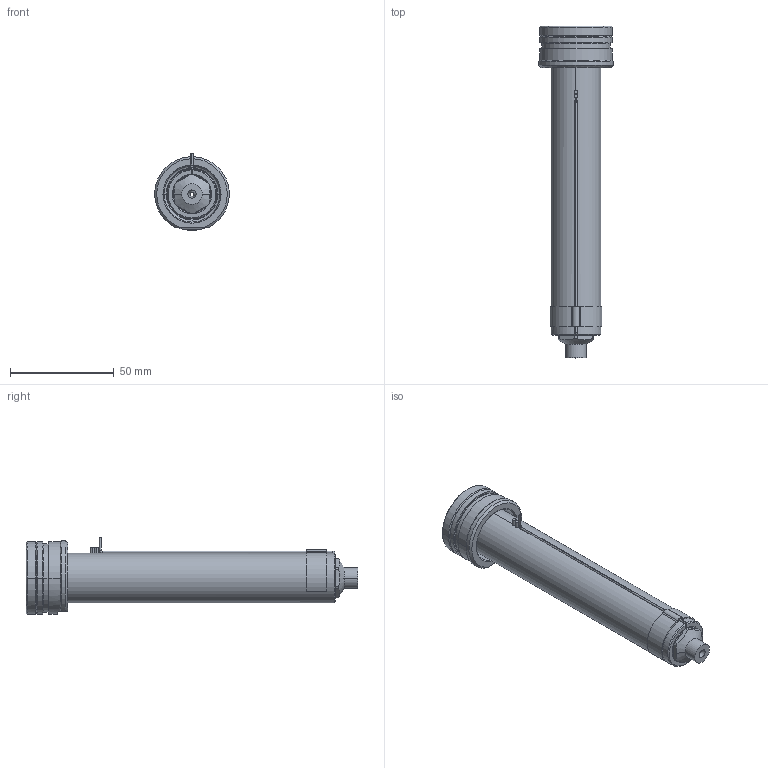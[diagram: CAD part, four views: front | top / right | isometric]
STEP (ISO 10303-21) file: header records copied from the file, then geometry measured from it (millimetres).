
FILE_DESCRIPTION((''),'2;1');
FILE_NAME('EO06_SG_SG_140_SW','2024-02-19T12:16:36',('sundharh'),(''),'CREO PARAMETRIC BY PTC INC, 2023154','CREO PARAMETRIC BY PTC INC, 2023154','');
FILE_SCHEMA(('CONFIG_CONTROL_DESIGN'));
Length unit declared in the file: millimetre
Products named in the file (1): EO06_SG_SG_140_SW
Bounding box: 35.93 x 160 x 37 mm (x, y, z)
Volume: 72886.9 mm3; surface area: 20319.1 mm2
Topology: 2 solids, 2 shells, 169 faces, 429 edges, 260 vertices
Faces by surface type: cylinder 68, plane 41, cone 30, torus 21, bspline 6, sphere 3
Entity records: 5821 total; most frequent: CARTESIAN_POINT 1697, DIRECTION 906, ORIENTED_EDGE 842, EDGE_CURVE 421, AXIS2_PLACEMENT_3D 378, VERTEX_POINT 260, CIRCLE 215, EDGE_LOOP 183
